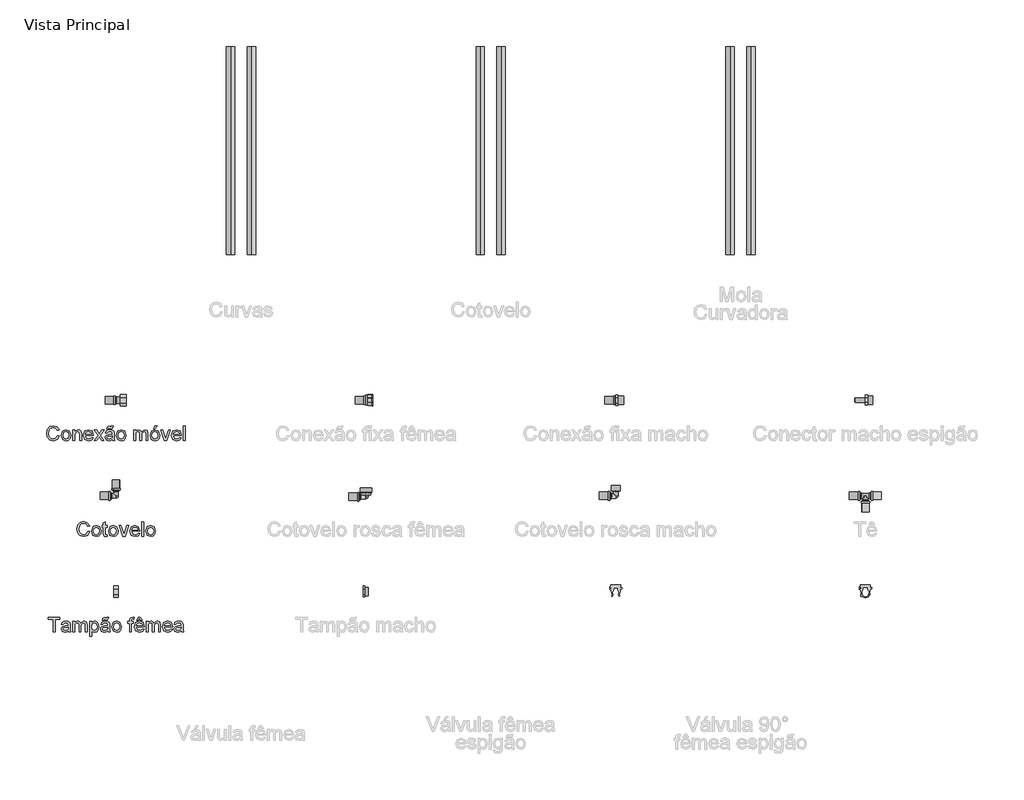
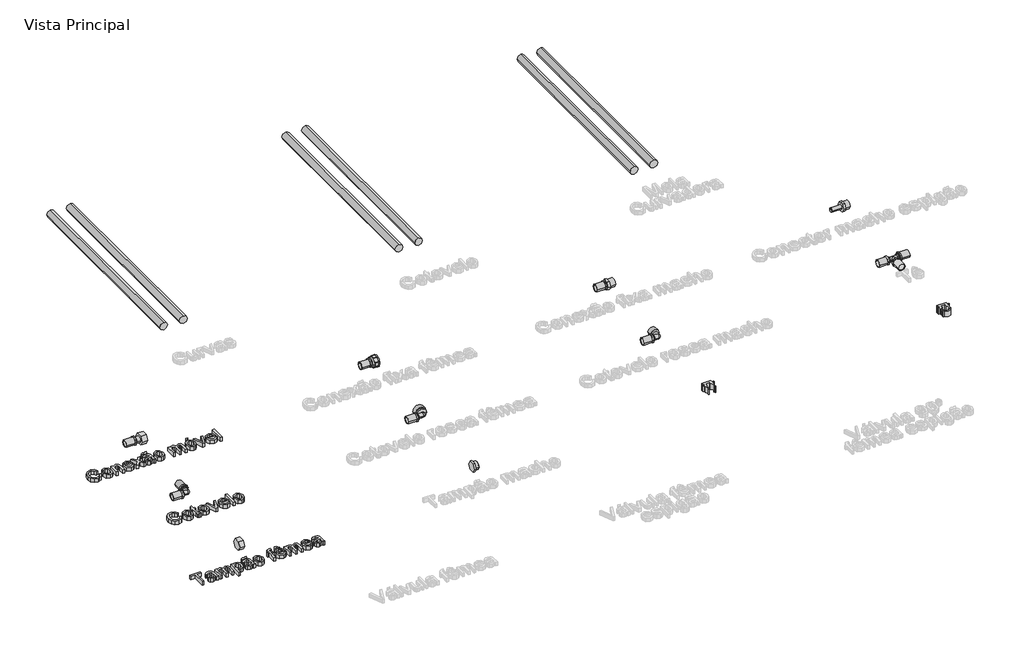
# One storey, part 1 of 5: 10 pipe fittings, 6 pipe segments, 3 proxies, 2 valves.
"""IFC4 building model written with IfcOpenShell, lengths in millimetres."""

from ifc_helpers import new_model, si_unit, point, frame, frame_2d, origin, origin_with_axes, place, context, project, spatial, polyline, circle_curve, trimmed, segment, composite_curve, outline, extrude, transform, mapped, element, save
from components import pipe_fitting_0619748f, pipe_fitting_c3ae606e, pipe_fitting_f01c144f, pipe_fitting_51212b87, pipe_fitting_8c27515d, pipe_fitting_84de9a5f, pipe_fitting_d493ae4f, pipe_fitting_e53a1377, pipe_fitting_d305088d, pipe_fitting_e26611ef, valve_88132709, valve_774353ad

model = new_model("IFC4")

# Units and contexts
model_context = context("Model", 3, world=origin())
ifc_project = project(units=[si_unit("LENGTHUNIT", "METRE", prefix="MILLI")], contexts=[model_context])

# Site, building, storey
site = spatial("IfcSite", under=ifc_project)
building = spatial("IfcBuilding", under=site)
storey = spatial("IfcBuildingStorey", under=building, Name="Vista Principal", Elevation=0.0)

# Proxies
placement = place(None, origin())
element("IfcBuildingElementProxy", 1, Name="Texto", ObjectType="Texto", at=placement, inside=storey, context=model_context, shape_type="SweptSolid", body=[
    extrude(outline(polyline([(-1232.2868861, -120.9709901), (-1227.8919225, -122.1040666), (-1233.1023578, -130.966957), (-1242.3043128, -134.0185382), (-1251.4504723, -131.7094655), (-1256.8154181, -125.0225971), (-1258.6566675, -115.6232122), (-1256.5750685, -106.0693168), (-1250.6564603, -99.8760234), (-1242.2098897, -97.7600888), (-1233.4070867, -100.4983571), (-1228.4412929, -108.2067111), (-1232.8362565, -109.2539486), (-1236.4415001, -103.8503752), (-1242.381568, -102.1550523), (-1249.2572825, -104.0349293), (-1253.1415032, -109.0822703), (-1254.2617039, -115.6146283), (-1252.9354893, -123.1856397), (-1248.806627, -128.0226748), (-1242.7420924, -129.6235746), (-1236.0165963, -127.4432607), (-1232.2868861, -120.9709901)])), origin_with_axes(), (0.0, 0.0, 1.0), 10.0),
    extrude(outline(polyline([(-1223.4969589, -120.5589623), (-1219.6942854, -109.9578294), (-1211.9515956, -107.0993863), (-1203.6466596, -110.5801632), (-1200.4234002, -120.1984379), (-1201.8483298, -128.0183829), (-1205.9986518, -132.4433901), (-1211.9515956, -134.0185382), (-1220.3080352, -130.5506373), (-1223.4969589, -120.5589623)]), holes=[polyline([(-1219.1019953, -120.5503784), (-1217.0676079, -127.3617135), (-1211.9515956, -129.6235746), (-1206.8527512, -127.3488376), (-1204.8183637, -120.4130357), (-1206.865627, -113.756211), (-1211.9515956, -111.4943499), (-1217.0676079, -113.7476271), (-1219.1019953, -120.5503784)])]), origin_with_axes(), (0.0, 0.0, 1.0), 10.0),
    extrude(outline(polyline([(-1195.4790662, -133.4691678), (-1195.4790662, -107.6487568), (-1191.0841026, -107.6487568), (-1191.0841026, -111.2540003), (-1183.1353989, -107.0993863), (-1178.9850769, -107.9363179), (-1176.1523855, -110.1337997), (-1174.8347549, -113.365643), (-1174.6029892, -117.61468), (-1174.6029892, -133.4691678), (-1178.9979528, -133.4691678), (-1178.9979528, -118.20697), (-1179.5044037, -114.3184574), (-1181.2941496, -112.2626101), (-1184.3113951, -111.4943499), (-1189.0797589, -113.2197165), (-1191.0841026, -119.7692423), (-1191.0841026, -133.4691678), (-1195.4790662, -133.4691678)])), origin_with_axes(), (0.0, 0.0, 1.0), 10.0),
    extrude(outline(polyline([(-1150.4821931, -125.7779815), (-1146.1730686, -126.327352), (-1150.2032159, -132.0013186), (-1157.709848, -134.0185382), (-1166.8345477, -130.5377614), (-1170.2080256, -120.7735601), (-1166.8002121, -110.6874621), (-1157.9587815, -107.0993863), (-1149.3705763, -110.6788782), (-1146.035726, -120.7478084), (-1165.8130621, -121.9323884), (-1163.2850996, -127.6406907), (-1157.6240089, -129.6235746), (-1153.3148844, -128.7050959), (-1150.4821931, -125.7779815)]), holes=[polyline([(-1165.8130621, -117.5374248), (-1150.4306896, -117.5374248), (-1152.1903918, -113.5544891), (-1157.9759493, -111.4943499), (-1163.3881066, -113.1381693), (-1165.8130621, -117.5374248)])]), origin_with_axes(), (0.0, 0.0, 1.0), 10.0),
    extrude(outline(polyline([(-1144.3876147, -133.4691678), (-1134.9968136, -120.490291), (-1143.8382442, -107.6487568), (-1138.5505537, -107.6487568), (-1134.2843488, -113.8291743), (-1132.2928809, -116.7477048), (-1130.5675144, -114.3613769), (-1125.7090195, -107.6487568), (-1120.421329, -107.6487568), (-1129.7091231, -120.490291), (-1120.7646855, -133.4691678), (-1126.052376, -133.4691678), (-1131.4344896, -125.6663906), (-1132.4216396, -124.241461), (-1139.0999241, -133.4691678), (-1144.3876147, -133.4691678)])), origin_with_axes(), (0.0, 0.0, 1.0), 10.0),
    extrude(outline(polyline([(-1100.437979, -130.1729451), (-1104.6998919, -133.151563), (-1109.4081683, -134.0185382), (-1115.7903078, -131.9326473), (-1118.0178333, -126.6020372), (-1117.1766098, -123.1255523), (-1114.9662521, -120.6018818), (-1111.8889192, -119.1597844), (-1108.0862457, -118.4988231), (-1100.4637307, -116.9880544), (-1101.6483107, -112.7647691), (-1106.5068056, -111.4943499), (-1110.9532727, -112.3398654), (-1113.0734992, -115.339943), (-1117.4684628, -114.7905726), (-1115.567126, -110.498616), (-1111.7387007, -107.9835294), (-1105.9402674, -107.0993863), (-1100.6139492, -107.8805224), (-1097.6052876, -109.8419466), (-1096.2576132, -112.8248565), (-1096.0430154, -116.6704496), (-1096.0430154, -122.1384023), (-1095.8198337, -129.7737931), (-1094.9442745, -133.4691678), (-1099.3392381, -133.4691678), (-1100.437979, -130.1729451)]), holes=[polyline([(-1100.4508548, -122.0053516), (-1107.5282913, -122.7306923), (-1111.3095051, -123.4431571), (-1113.0219958, -124.6019854), (-1113.6228697, -126.2930163), (-1112.3138229, -128.6707603), (-1108.4725218, -129.6235746), (-1104.0260547, -128.5720453), (-1101.1590277, -126.026915), (-1100.4508548, -122.0053516)])]), origin_with_axes(), (0.0, 0.0, 1.0), 10.0),
    extrude(outline(polyline([(-1114.1722401, -104.9019046), (-1112.8073979, -100.1034971), (-1109.3137453, -98.3094592), (-1105.7943408, -99.7258049), (-1104.0174708, -100.506941), (-1102.6354608, -98.3094592), (-1098.7898676, -98.3094592), (-1100.1847535, -103.2537932), (-1103.5539395, -104.9019046), (-1107.0304243, -103.5628141), (-1108.8845496, -102.7044228), (-1110.326647, -104.9019046), (-1114.1722401, -104.9019046)])), origin_with_axes(), (0.0, 0.0, 1.0), 10.0),
    extrude(outline(polyline([(-1091.0986814, -120.5589623), (-1087.2960078, -109.9578294), (-1079.5533181, -107.0993863), (-1071.2483821, -110.5801632), (-1068.0251227, -120.1984379), (-1069.4500523, -128.0183829), (-1073.6003743, -132.4433901), (-1079.5533181, -134.0185382), (-1087.9097576, -130.5506373), (-1091.0986814, -120.5589623)]), holes=[polyline([(-1086.7037178, -120.5503784), (-1084.6693304, -127.3617135), (-1079.5533181, -129.6235746), (-1074.4544737, -127.3488376), (-1072.4200862, -120.4130357), (-1074.4673495, -113.756211), (-1079.5533181, -111.4943499), (-1084.6693304, -113.7476271), (-1086.7037178, -120.5503784)])]), origin_with_axes(), (0.0, 0.0, 1.0), 10.0),
    extrude(outline(polyline([(-1049.3465275, -133.4691678), (-1049.3465275, -107.6487568), (-1044.9515639, -107.6487568), (-1044.9515639, -111.8977938), (-1041.9300265, -108.417017), (-1037.6294859, -107.0993863), (-1033.2259385, -108.4427688), (-1030.8052749, -112.2068147), (-1023.0454174, -107.0993863), (-1017.2984875, -109.2239049), (-1015.2855598, -115.7691387), (-1015.2855598, -133.4691678), (-1019.6805234, -133.4691678), (-1019.6805234, -117.6575996), (-1020.0882593, -113.9879767), (-1021.5646924, -112.181063), (-1024.075487, -111.4943499), (-1028.3974873, -113.2540521), (-1030.1185619, -118.8936831), (-1030.1185619, -133.4691678), (-1034.5135254, -133.4691678), (-1034.5135254, -117.1683165), (-1035.5307192, -112.9106956), (-1038.8655694, -111.4943499), (-1042.1188726, -112.4385804), (-1044.2820187, -115.2026004), (-1044.9515639, -120.4473714), (-1044.9515639, -133.4691678), (-1049.3465275, -133.4691678)])), origin_with_axes(), (0.0, 0.0, 1.0), 10.0),
    extrude(outline(polyline([(-1009.7918554, -120.5589623), (-1005.9891818, -109.9578294), (-998.2464921, -107.0993863), (-989.941556, -110.5801632), (-986.7182966, -120.1984379), (-988.1432262, -128.0183829), (-992.2935483, -132.4433901), (-998.2464921, -134.0185382), (-1006.6029316, -130.5506373), (-1009.7918554, -120.5589623)]), holes=[polyline([(-1005.3968918, -120.5503784), (-1003.3625044, -127.3617135), (-998.2464921, -129.6235746), (-993.1476476, -127.3488376), (-991.1132602, -120.4130357), (-993.1605235, -113.756211), (-998.2464921, -111.4943499), (-1003.3625044, -113.7476271), (-1005.3968918, -120.5503784)])]), origin_with_axes(), (0.0, 0.0, 1.0), 10.0),
    extrude(outline(polyline([(-1001.5512987, -104.9019046), (-998.255076, -98.3094592), (-992.7613715, -98.3094592), (-998.255076, -104.9019046), (-1001.5512987, -104.9019046)])), origin_with_axes(), (0.0, 0.0, 1.0), 10.0),
    extrude(outline(polyline([(-975.4390347, -133.4691678), (-984.5208148, -107.6487568), (-979.8683339, -107.6487568), (-974.3660455, -123.1169684), (-972.7093503, -128.3188198), (-971.0869907, -123.4088215), (-965.5503666, -107.6487568), (-960.8978857, -107.6487568), (-969.868075, -133.4691678), (-975.4390347, -133.4691678)])), origin_with_axes(), (0.0, 0.0, 1.0), 10.0),
    extrude(outline(polyline([(-938.9745713, -125.7779815), (-934.6654469, -126.327352), (-938.6955941, -132.0013186), (-946.2022262, -134.0185382), (-955.326926, -130.5377614), (-958.7004039, -120.7735601), (-955.2925903, -110.6874621), (-946.4511597, -107.0993863), (-937.8629545, -110.6788782), (-934.5281042, -120.7478084), (-954.3054403, -121.9323884), (-951.7774779, -127.6406907), (-946.1163871, -129.6235746), (-941.8072627, -128.7050959), (-938.9745713, -125.7779815)]), holes=[polyline([(-954.3054403, -117.5374248), (-938.9230678, -117.5374248), (-940.68277, -113.5544891), (-946.4683275, -111.4943499), (-951.8804848, -113.1381693), (-954.3054403, -117.5374248)])]), origin_with_axes(), (0.0, 0.0, 1.0), 10.0),
    extrude(outline(polyline([(-930.1331407, -133.4691678), (-930.1331407, -98.3094592), (-925.7381771, -98.3094592), (-925.7381771, -133.4691678), (-930.1331407, -133.4691678)])), origin_with_axes(), (0.0, 0.0, 1.0), 10.0),
])
element("IfcBuildingElementProxy", 2, Name="Texto", ObjectType="Texto", at=placement, inside=storey, context=model_context, shape_type="SweptSolid", body=[
    extrude(outline(polyline([(-1159.2206167, -350.9709901), (-1154.8256531, -352.1040666), (-1160.0360885, -360.966957), (-1169.2380434, -364.0185382), (-1178.384203, -361.7094655), (-1183.7491487, -355.0225971), (-1185.5903981, -345.6232122), (-1183.5087992, -336.0693168), (-1177.590191, -329.8760234), (-1169.1436204, -327.7600888), (-1160.3408174, -330.4983571), (-1155.3750236, -338.2067111), (-1159.7699872, -339.2539486), (-1163.3752307, -333.8503752), (-1169.3152987, -332.1550523), (-1176.1910132, -334.0349293), (-1180.0752339, -339.0822703), (-1181.1954346, -345.6146283), (-1179.86922, -353.1856397), (-1175.7403577, -358.0226748), (-1169.675823, -359.6235746), (-1162.950327, -357.4432607), (-1159.2206167, -350.9709901)])), origin_with_axes(), (0.0, 0.0, 1.0), 10.0),
    extrude(outline(polyline([(-1150.4306896, -350.5589623), (-1146.628016, -339.9578294), (-1138.8853263, -337.0993863), (-1130.5803903, -340.5801632), (-1127.3571308, -350.1984379), (-1128.7820604, -358.0183829), (-1132.9323825, -362.4433901), (-1138.8853263, -364.0185382), (-1147.2417658, -360.5506373), (-1150.4306896, -350.5589623)]), holes=[polyline([(-1146.035726, -350.5503784), (-1144.0013386, -357.3617135), (-1138.8853263, -359.6235746), (-1133.7864818, -357.3488376), (-1131.7520944, -350.4130357), (-1133.7993577, -343.756211), (-1138.8853263, -341.4943499), (-1144.0013386, -343.7476271), (-1146.035726, -350.5503784)])]), origin_with_axes(), (0.0, 0.0, 1.0), 10.0),
    extrude(outline(polyline([(-1113.0734992, -359.8038368), (-1112.5241288, -363.5979265), (-1115.8117676, -364.0185382), (-1119.4942663, -363.2889056), (-1121.3312238, -361.3746929), (-1121.8634264, -356.3874393), (-1121.8634264, -342.0437204), (-1125.1596491, -342.0437204), (-1125.1596491, -337.6487568), (-1121.8634264, -337.6487568), (-1121.8634264, -331.3739162), (-1117.4684628, -328.7901583), (-1117.4684628, -337.6487568), (-1113.0734992, -337.6487568), (-1113.0734992, -342.0437204), (-1117.4684628, -342.0437204), (-1117.4684628, -356.2586806), (-1117.2366972, -358.5248337), (-1113.0734992, -359.8038368)])), origin_with_axes(), (0.0, 0.0, 1.0), 10.0),
    extrude(outline(polyline([(-1109.7772766, -350.5589623), (-1105.974603, -339.9578294), (-1098.2319133, -337.0993863), (-1089.9269772, -340.5801632), (-1086.7037178, -350.1984379), (-1088.1286474, -358.0183829), (-1092.2789695, -362.4433901), (-1098.2319133, -364.0185382), (-1106.5883528, -360.5506373), (-1109.7772766, -350.5589623)]), holes=[polyline([(-1105.382313, -350.5503784), (-1103.3479256, -357.3617135), (-1098.2319133, -359.6235746), (-1093.1330688, -357.3488376), (-1091.0986814, -350.4130357), (-1093.1459447, -343.756211), (-1098.2319133, -341.4943499), (-1103.3479256, -343.7476271), (-1105.382313, -350.5503784)])]), origin_with_axes(), (0.0, 0.0, 1.0), 10.0),
    extrude(outline(polyline([(-1075.4244559, -363.4691678), (-1084.506236, -337.6487568), (-1079.8537551, -337.6487568), (-1074.3514667, -353.1169684), (-1072.6947715, -358.3188198), (-1071.0724119, -353.4088215), (-1065.5357878, -337.6487568), (-1060.8833069, -337.6487568), (-1069.8534962, -363.4691678), (-1075.4244559, -363.4691678)])), origin_with_axes(), (0.0, 0.0, 1.0), 10.0),
    extrude(outline(polyline([(-1038.9599925, -355.7779815), (-1034.6508681, -356.327352), (-1038.6810153, -362.0013186), (-1046.1876474, -364.0185382), (-1055.3123472, -360.5377614), (-1058.6858251, -350.7735601), (-1055.2780115, -340.6874621), (-1046.4365809, -337.0993863), (-1037.8483757, -340.6788782), (-1034.5135254, -350.7478084), (-1054.2908615, -351.9323884), (-1051.7628991, -357.6406907), (-1046.1018083, -359.6235746), (-1041.7926839, -358.7050959), (-1038.9599925, -355.7779815)]), holes=[polyline([(-1054.2908615, -347.5374248), (-1038.908489, -347.5374248), (-1040.6681912, -343.5544891), (-1046.4537487, -341.4943499), (-1051.865906, -343.1381693), (-1054.2908615, -347.5374248)])]), origin_with_axes(), (0.0, 0.0, 1.0), 10.0),
    extrude(outline(polyline([(-1030.1185619, -363.4691678), (-1030.1185619, -328.3094592), (-1025.7235983, -328.3094592), (-1025.7235983, -363.4691678), (-1030.1185619, -363.4691678)])), origin_with_axes(), (0.0, 0.0, 1.0), 10.0),
    extrude(outline(polyline([(-1020.2298938, -350.5589623), (-1016.4272203, -339.9578294), (-1008.6845306, -337.0993863), (-1000.3795945, -340.5801632), (-997.1563351, -350.1984379), (-998.5812647, -358.0183829), (-1002.7315867, -362.4433901), (-1008.6845306, -364.0185382), (-1017.0409701, -360.5506373), (-1020.2298938, -350.5589623)]), holes=[polyline([(-1015.8349303, -350.5503784), (-1013.8005428, -357.3617135), (-1008.6845306, -359.6235746), (-1003.5856861, -357.3488376), (-1001.5512987, -350.4130357), (-1003.598562, -343.756211), (-1008.6845306, -341.4943499), (-1013.8005428, -343.7476271), (-1015.8349303, -350.5503784)])]), origin_with_axes(), (0.0, 0.0, 1.0), 10.0),
])
element("IfcBuildingElementProxy", 3, Name="Texto", ObjectType="Texto", at=placement, inside=storey, context=model_context, shape_type="SweptSolid", body=[
    extrude(outline(polyline([(-1242.7249245, -593.4691678), (-1242.7249245, -562.7044228), (-1254.2617039, -562.7044228), (-1254.2617039, -558.3094592), (-1226.7931816, -558.3094592), (-1226.7931816, -562.7044228), (-1238.329961, -562.7044228), (-1238.329961, -593.4691678), (-1242.7249245, -593.4691678)])), origin_with_axes(), (0.0, 0.0, 1.0), 10.0),
    extrude(outline(polyline([(-1205.9171046, -590.1729451), (-1210.1790176, -593.151563), (-1214.887294, -594.0185382), (-1221.2694334, -591.9326473), (-1223.4969589, -586.6020372), (-1222.6557354, -583.1255523), (-1220.4453778, -580.6018818), (-1217.3680449, -579.1597844), (-1213.5653713, -578.4988231), (-1205.9428564, -576.9880544), (-1207.1274364, -572.7647691), (-1211.9859313, -571.4943499), (-1216.4323983, -572.3398654), (-1218.5526249, -575.339943), (-1222.9475885, -574.7905726), (-1221.0462517, -570.498616), (-1217.2178264, -567.9835294), (-1211.419393, -567.0993863), (-1206.0930749, -567.8805224), (-1203.0844133, -569.8419466), (-1201.7367389, -572.8248565), (-1201.5221411, -576.6704496), (-1201.5221411, -582.1384023), (-1201.2989593, -589.7737931), (-1200.4234002, -593.4691678), (-1204.8183637, -593.4691678), (-1205.9171046, -590.1729451)]), holes=[polyline([(-1205.9299805, -582.0053516), (-1213.007417, -582.7306923), (-1216.7886307, -583.4431571), (-1218.5011214, -584.6019854), (-1219.1019953, -586.2930163), (-1217.7929486, -588.6707603), (-1213.9516474, -589.6235746), (-1209.5051804, -588.5720453), (-1206.6381533, -586.026915), (-1205.9299805, -582.0053516)])]), origin_with_axes(), (0.0, 0.0, 1.0), 10.0),
    extrude(outline(polyline([(-1195.4790662, -593.4691678), (-1195.4790662, -567.6487568), (-1191.0841026, -567.6487568), (-1191.0841026, -571.8977938), (-1188.0625651, -568.417017), (-1183.7620246, -567.0993863), (-1179.3584771, -568.4427688), (-1176.9378136, -572.2068147), (-1169.1779561, -567.0993863), (-1163.4310262, -569.2239049), (-1161.4180985, -575.7691387), (-1161.4180985, -593.4691678), (-1165.8130621, -593.4691678), (-1165.8130621, -577.6575996), (-1166.2207979, -573.9879767), (-1167.697231, -572.181063), (-1170.2080256, -571.4943499), (-1174.5300259, -573.2540521), (-1176.2511005, -578.8936831), (-1176.2511005, -593.4691678), (-1180.6460641, -593.4691678), (-1180.6460641, -577.1683165), (-1181.6632578, -572.9106956), (-1184.9981081, -571.4943499), (-1188.2514112, -572.4385804), (-1190.4145574, -575.2026004), (-1191.0841026, -580.4473714), (-1191.0841026, -593.4691678), (-1195.4790662, -593.4691678)])), origin_with_axes(), (0.0, 0.0, 1.0), 10.0),
    extrude(outline(polyline([(-1154.8256531, -603.3578358), (-1154.8256531, -567.6487568), (-1150.4306896, -567.6487568), (-1150.4306896, -571.9578812), (-1147.3919843, -568.3140101), (-1143.2888738, -567.0993863), (-1137.7179141, -568.7990012), (-1134.0783349, -573.5888247), (-1132.8508353, -580.3615323), (-1134.2371373, -587.4818883), (-1138.2629926, -592.3317993), (-1143.8210764, -594.0185382), (-1147.6452097, -592.8897536), (-1150.4306896, -590.0356025), (-1150.4306896, -603.3578358), (-1154.8256531, -603.3578358)]), holes=[polyline([(-1150.4306896, -580.7649762), (-1148.5293528, -587.4604285), (-1143.9154994, -589.6235746), (-1139.207223, -587.3831733), (-1137.2457989, -580.4387875), (-1139.1600115, -573.7261673), (-1143.7352373, -571.4943499), (-1148.4005941, -573.8678019), (-1150.4306896, -580.7649762)])]), origin_with_axes(), (0.0, 0.0, 1.0), 10.0),
    extrude(outline(polyline([(-1125.1596491, -564.9019046), (-1123.7948069, -560.1034971), (-1120.3011542, -558.3094592), (-1116.7817498, -559.7258049), (-1115.0048797, -560.506941), (-1113.6228697, -558.3094592), (-1109.7772766, -558.3094592), (-1111.1721625, -563.2537932), (-1114.5413484, -564.9019046), (-1118.0178333, -563.5628141), (-1119.8719585, -562.7044228), (-1121.3140559, -564.9019046), (-1125.1596491, -564.9019046)])), origin_with_axes(), (0.0, 0.0, 1.0), 10.0),
    extrude(outline(polyline([(-1111.4253879, -590.1729451), (-1115.6873008, -593.151563), (-1120.3955772, -594.0185382), (-1126.7777167, -591.9326473), (-1129.0052422, -586.6020372), (-1128.1640187, -583.1255523), (-1125.953661, -580.6018818), (-1122.8763281, -579.1597844), (-1119.0736546, -578.4988231), (-1111.4511396, -576.9880544), (-1112.6357197, -572.7647691), (-1117.4942145, -571.4943499), (-1121.9406816, -572.3398654), (-1124.0609082, -575.339943), (-1128.4558717, -574.7905726), (-1126.554535, -570.498616), (-1122.7261097, -567.9835294), (-1116.9276763, -567.0993863), (-1111.6013581, -567.8805224), (-1108.5926965, -569.8419466), (-1107.2450222, -572.8248565), (-1107.0304243, -576.6704496), (-1107.0304243, -582.1384023), (-1106.8072426, -589.7737931), (-1105.9316834, -593.4691678), (-1110.326647, -593.4691678), (-1111.4253879, -590.1729451)]), holes=[polyline([(-1111.4382638, -582.0053516), (-1118.5157002, -582.7306923), (-1122.296914, -583.4431571), (-1124.0094047, -584.6019854), (-1124.6102786, -586.2930163), (-1123.3012318, -588.6707603), (-1119.4599307, -589.6235746), (-1115.0134636, -588.5720453), (-1112.1464366, -586.026915), (-1111.4382638, -582.0053516)])]), origin_with_axes(), (0.0, 0.0, 1.0), 10.0),
    extrude(outline(polyline([(-1102.0860903, -580.5589623), (-1098.2834168, -569.9578294), (-1090.540727, -567.0993863), (-1082.235791, -570.5801632), (-1079.0125316, -580.1984379), (-1080.4374612, -588.0183829), (-1084.5877832, -592.4433901), (-1090.540727, -594.0185382), (-1098.8971666, -590.5506373), (-1102.0860903, -580.5589623)]), holes=[polyline([(-1097.6911267, -580.5503784), (-1095.6567393, -587.3617135), (-1090.540727, -589.6235746), (-1085.4418826, -587.3488376), (-1083.4074951, -580.4130357), (-1085.4547585, -573.756211), (-1090.540727, -571.4943499), (-1095.6567393, -573.7476271), (-1097.6911267, -580.5503784)])]), origin_with_axes(), (0.0, 0.0, 1.0), 10.0),
    extrude(outline(polyline([(-1059.2351955, -593.4691678), (-1059.2351955, -572.0437204), (-1063.0807886, -572.0437204), (-1063.0807886, -567.6487568), (-1059.2351955, -567.6487568), (-1059.2351955, -565.0478311), (-1058.7716642, -561.3825001), (-1056.5226789, -558.7644066), (-1052.0933797, -557.7600888), (-1048.0846922, -558.2407879), (-1048.7284857, -562.3610662), (-1051.2607401, -562.1550523), (-1054.0290522, -562.8846849), (-1054.840232, -565.6057854), (-1054.840232, -567.6487568), (-1049.8958979, -567.6487568), (-1049.8958979, -572.0437204), (-1054.840232, -572.0437204), (-1054.840232, -593.4691678), (-1059.2351955, -593.4691678)])), origin_with_axes(), (0.0, 0.0, 1.0), 10.0),
    extrude(outline(polyline([(-1027.9725836, -585.7779815), (-1023.6634591, -586.327352), (-1027.6936064, -592.0013186), (-1035.2002385, -594.0185382), (-1044.3249383, -590.5377614), (-1047.6984162, -580.7735601), (-1044.2906026, -570.6874621), (-1035.449172, -567.0993863), (-1026.8609668, -570.6788782), (-1023.5261165, -580.7478084), (-1043.3034526, -581.9323884), (-1040.7754901, -587.6406907), (-1035.1143994, -589.6235746), (-1030.8052749, -588.7050959), (-1027.9725836, -585.7779815)]), holes=[polyline([(-1043.3034526, -577.5374248), (-1027.9210801, -577.5374248), (-1029.6807823, -573.5544891), (-1035.4663398, -571.4943499), (-1040.8784971, -573.1381693), (-1043.3034526, -577.5374248)])]), origin_with_axes(), (0.0, 0.0, 1.0), 10.0),
    extrude(outline(polyline([(-1035.6122663, -560.506941), (-1038.0844333, -564.9019046), (-1042.4793969, -564.9019046), (-1037.8097481, -558.3094592), (-1033.4147846, -558.3094592), (-1028.1957653, -564.9019046), (-1032.5907289, -564.9019046), (-1035.6122663, -560.506941)])), origin_with_axes(), (0.0, 0.0, 1.0), 10.0),
    extrude(outline(polyline([(-1019.131153, -593.4691678), (-1019.131153, -567.6487568), (-1014.7361894, -567.6487568), (-1014.7361894, -571.8977938), (-1011.7146519, -568.417017), (-1007.4141114, -567.0993863), (-1003.0105639, -568.4427688), (-1000.5899004, -572.2068147), (-992.8300428, -567.0993863), (-987.0831129, -569.2239049), (-985.0701853, -575.7691387), (-985.0701853, -593.4691678), (-989.4651489, -593.4691678), (-989.4651489, -577.6575996), (-989.8728847, -573.9879767), (-991.3493178, -572.181063), (-993.8601124, -571.4943499), (-998.1821127, -573.2540521), (-999.9031873, -578.8936831), (-999.9031873, -593.4691678), (-1004.2981509, -593.4691678), (-1004.2981509, -577.1683165), (-1005.3153446, -572.9106956), (-1008.6501949, -571.4943499), (-1011.903498, -572.4385804), (-1014.0666442, -575.2026004), (-1014.7361894, -580.4473714), (-1014.7361894, -593.4691678), (-1019.131153, -593.4691678)])), origin_with_axes(), (0.0, 0.0, 1.0), 10.0),
    extrude(outline(polyline([(-960.4000187, -585.7779815), (-956.0908943, -586.327352), (-960.1210415, -592.0013186), (-967.6276736, -594.0185382), (-976.7523734, -590.5377614), (-980.1258513, -580.7735601), (-976.7180377, -570.6874621), (-967.8766071, -567.0993863), (-959.2884019, -570.6788782), (-955.9535516, -580.7478084), (-975.7308877, -581.9323884), (-973.2029253, -587.6406907), (-967.5418345, -589.6235746), (-963.2327101, -588.7050959), (-960.4000187, -585.7779815)]), holes=[polyline([(-975.7308877, -577.5374248), (-960.3485152, -577.5374248), (-962.1082174, -573.5544891), (-967.8937749, -571.4943499), (-973.3059322, -573.1381693), (-975.7308877, -577.5374248)])]), origin_with_axes(), (0.0, 0.0, 1.0), 10.0),
    extrude(outline(polyline([(-935.0774747, -590.1729451), (-939.3393876, -593.151563), (-944.047664, -594.0185382), (-950.4298035, -591.9326473), (-952.657329, -586.6020372), (-951.8161055, -583.1255523), (-949.6057478, -580.6018818), (-946.5284149, -579.1597844), (-942.7257414, -578.4988231), (-935.1032264, -576.9880544), (-936.2878065, -572.7647691), (-941.1463013, -571.4943499), (-945.5927684, -572.3398654), (-947.712995, -575.339943), (-952.1079585, -574.7905726), (-950.2066217, -570.498616), (-946.3781964, -567.9835294), (-940.5797631, -567.0993863), (-935.2534449, -567.8805224), (-932.2447833, -569.8419466), (-930.897109, -572.8248565), (-930.6825111, -576.6704496), (-930.6825111, -582.1384023), (-930.4593294, -589.7737931), (-929.5837702, -593.4691678), (-933.9787338, -593.4691678), (-935.0774747, -590.1729451)]), holes=[polyline([(-935.0903506, -582.0053516), (-942.167787, -582.7306923), (-945.9490008, -583.4431571), (-947.6614915, -584.6019854), (-948.2623654, -586.2930163), (-946.9533186, -588.6707603), (-943.1120175, -589.6235746), (-938.6655504, -588.5720453), (-935.7985234, -586.026915), (-935.0903506, -582.0053516)])]), origin_with_axes(), (0.0, 0.0, 1.0), 10.0),
])

# Pipe fittings
pipe_fitting_shape = pipe_fitting_0619748f(model_context)
element("IfcPipeFitting", 4, ObjectType="Astra Gás - Conexão Rosca Móvel - GRM : Astra Gás - Conexão Rosca Móvel - GRM", at=placement, inside=storey, context=model_context, shape_type="MappedRepresentation", body=[
    mapped(pipe_fitting_shape, transform((-1091.6480518, -35.9691678, 0.0), x_axis=(1.0, 0.0, 0.0), y_axis=(0.0, 1.0, 0.0), z_axis=(0.0, 0.0, 1.0))),
])
pipe_fitting_2_shape = pipe_fitting_c3ae606e(model_context)
element("IfcPipeFitting", 5, ObjectType="Astra Gás - Conexão Fixa Fêmea - GRH : Astra Gás - Conexão Fixa Fêmea - GRH", at=placement, inside=storey, context=model_context, shape_type="MappedRepresentation", body=[
    mapped(pipe_fitting_2_shape, transform((-491.6480518, -35.9691678, 0.0), x_axis=(1.0, 0.0, 0.0), y_axis=(0.0, 1.0, 0.0), z_axis=(0.0, 0.0, 1.0))),
])
pipe_fitting_3_shape = pipe_fitting_f01c144f(model_context)
element("IfcPipeFitting", 6, ObjectType="Astra Gás - Conexão Fixa Macho - GRC : Astra Gás - Conexão Fixa Macho - GRC", at=placement, inside=storey, context=model_context, shape_type="MappedRepresentation", body=[
    mapped(pipe_fitting_3_shape, transform((108.3519482, -35.9691678, 0.0), x_axis=(1.0, 0.0, 0.0), y_axis=(0.0, 1.0, 0.0), z_axis=(0.0, 0.0, 1.0))),
])
pipe_fitting_4_shape = pipe_fitting_51212b87(model_context)
element("IfcPipeFitting", 7, ObjectType="Astra Gás - Conector Macho Espigão - GE : Astra Gás - Conector Macho Espigão - GE", at=placement, inside=storey, context=model_context, shape_type="MappedRepresentation", body=[
    mapped(pipe_fitting_4_shape, transform((708.3519482, -35.9691678, 0.0), x_axis=(1.0, 0.0, 0.0), y_axis=(0.0, 1.0, 0.0), z_axis=(0.0, 0.0, 1.0))),
])
pipe_fitting_5_shape = pipe_fitting_8c27515d(model_context)
element("IfcPipeFitting", 8, ObjectType="Astra Gás - Cotovelo - GC : Astra Gás - Cotovelo - GC", at=placement, inside=storey, context=model_context, shape_type="MappedRepresentation", body=[
    mapped(pipe_fitting_5_shape, transform((-1091.6480518, -265.9691678, 0.0), x_axis=(1.0, 0.0, 0.0), y_axis=(0.0, 1.0, 0.0), z_axis=(0.0, 0.0, 1.0))),
])
pipe_fitting_6_shape = pipe_fitting_84de9a5f(model_context)
element("IfcPipeFitting", 9, ObjectType="Astra Gás - Cotovelo com Rosca Fêmea - GTC : Astra Gás - Cotovelo com Rosca Fêmea - GTC", at=placement, inside=storey, context=model_context, shape_type="MappedRepresentation", body=[
    mapped(pipe_fitting_6_shape, transform((-491.6480518, -268.3937986, 0.0), x_axis=(1.0, 0.0, 0.0), y_axis=(0.0, 1.0, 0.0), z_axis=(0.0, 0.0, 1.0))),
])
pipe_fitting_7_shape = pipe_fitting_d493ae4f(model_context)
element("IfcPipeFitting", 10, ObjectType="Astra Gás - Cotovelo com Rosca Macho - GCR : Astra Gás - Cotovelo com Rosca Macho - GCR", at=placement, inside=storey, context=model_context, shape_type="MappedRepresentation", body=[
    mapped(pipe_fitting_7_shape, transform((108.3519482, -265.9691678, 0.0), x_axis=(1.0, 0.0, 0.0), y_axis=(0.0, 1.0, 0.0), z_axis=(0.0, 0.0, 1.0))),
])
pipe_fitting_8_shape = pipe_fitting_e53a1377(model_context)
element("IfcPipeFitting", 11, ObjectType="Astra Gás - Tampão Fêmea para Distribuidor - TAPH : Astra Gás - Tampão Fêmea para Distribuidor - TAPH", at=placement, inside=storey, context=model_context, shape_type="MappedRepresentation", body=[
    mapped(pipe_fitting_8_shape, transform((-1091.6480518, -495.9691678, 0.0), x_axis=(1.0, 0.0, 0.0), y_axis=(0.0, 1.0, 0.0), z_axis=(0.0, 0.0, 1.0))),
])
pipe_fitting_9_shape = pipe_fitting_d305088d(model_context)
element("IfcPipeFitting", 12, ObjectType="Astra Gás - Tampão Macho para Distribuidor - TAPM : Astra Gás - Tampão Macho para Distribuidor - TAPM", at=placement, inside=storey, context=model_context, shape_type="MappedRepresentation", body=[
    mapped(pipe_fitting_9_shape, transform((-491.6480518, -495.9691678, 0.0), x_axis=(1.0, 0.0, 0.0), y_axis=(0.0, 1.0, 0.0), z_axis=(0.0, 0.0, 1.0))),
])
pipe_fitting_10_shape = pipe_fitting_e26611ef(model_context)
element("IfcPipeFitting", 13, ObjectType="Astra Gás - Tê - GT : Astra Gás - Tê - GT", at=placement, inside=storey, context=model_context, shape_type="MappedRepresentation", body=[
    mapped(pipe_fitting_10_shape, transform((708.3519482, -265.9691678, 0.0), x_axis=(1.0, 0.0, 0.0), y_axis=(0.0, 1.0, 0.0), z_axis=(0.0, 0.0, 1.0))),
])

# Pipe segments
element("IfcPipeSegment", 14, ObjectType="Astra Gás - Amarelo - Curvas", at=placement, inside=storey, context=model_context, shape_type="SweptSolid", body=[
    extrude(outline(composite_curve([segment(trimmed(circle_curve(frame_2d((0.0, -816.6480518)), 10.0), [point((0.0, -826.6480518))], [point((-10.0, -816.6480518))], False, "CARTESIAN"), True, "CONTINUOUS"), segment(trimmed(circle_curve(frame_2d((0.0, -816.6480518)), 10.0), [point((-10.0, -816.6480518))], [point((0.0, -806.6480518))], False, "CARTESIAN"), True, "CONTINUOUS"), segment(trimmed(circle_curve(frame_2d((0.0, -816.6480518)), 10.0), [point((0.0, -806.6480518))], [point((10.0, -816.6480518))], False, "CARTESIAN"), True, "CONTINUOUS"), segment(trimmed(circle_curve(frame_2d((0.0, -816.6480518)), 10.0), [point((10.0, -816.6480518))], [point((0.0, -826.6480518))], False, "CARTESIAN"), True, "CONTINUOUS")], self_intersect=False)), frame((0.0, 314.0308322, 0.0), z_axis=(0.0, 1.0, 0.0), x_axis=(0.0, 0.0, 1.0)), (0.0, 0.0, 1.0), 500.0),
])
element("IfcPipeSegment", 15, ObjectType="Astra Gás - Branco - Curvas", at=placement, inside=storey, context=model_context, shape_type="SweptSolid", body=[
    extrude(outline(composite_curve([segment(trimmed(circle_curve(frame_2d((0.0, -766.6480518)), 10.0), [point((0.0, -776.6480518))], [point((-10.0, -766.6480518))], False, "CARTESIAN"), True, "CONTINUOUS"), segment(trimmed(circle_curve(frame_2d((0.0, -766.6480518)), 10.0), [point((-10.0, -766.6480518))], [point((0.0, -756.6480518))], False, "CARTESIAN"), True, "CONTINUOUS"), segment(trimmed(circle_curve(frame_2d((0.0, -766.6480518)), 10.0), [point((0.0, -756.6480518))], [point((10.0, -766.6480518))], False, "CARTESIAN"), True, "CONTINUOUS"), segment(trimmed(circle_curve(frame_2d((0.0, -766.6480518)), 10.0), [point((10.0, -766.6480518))], [point((0.0, -776.6480518))], False, "CARTESIAN"), True, "CONTINUOUS")], self_intersect=False)), frame((0.0, 314.0308322, 0.0), z_axis=(0.0, 1.0, 0.0), x_axis=(0.0, 0.0, 1.0)), (0.0, 0.0, 1.0), 500.0),
])
element("IfcPipeSegment", 16, ObjectType="Astra Gás - Amarelo - Cotovelo", at=placement, inside=storey, context=model_context, shape_type="SweptSolid", body=[
    extrude(outline(composite_curve([segment(trimmed(circle_curve(frame_2d((0.0, -216.6480518)), 10.0), [point((0.0, -226.6480518))], [point((-10.0, -216.6480518))], False, "CARTESIAN"), True, "CONTINUOUS"), segment(trimmed(circle_curve(frame_2d((0.0, -216.6480518)), 10.0), [point((-10.0, -216.6480518))], [point((0.0, -206.6480518))], False, "CARTESIAN"), True, "CONTINUOUS"), segment(trimmed(circle_curve(frame_2d((0.0, -216.6480518)), 10.0), [point((0.0, -206.6480518))], [point((10.0, -216.6480518))], False, "CARTESIAN"), True, "CONTINUOUS"), segment(trimmed(circle_curve(frame_2d((0.0, -216.6480518)), 10.0), [point((10.0, -216.6480518))], [point((0.0, -226.6480518))], False, "CARTESIAN"), True, "CONTINUOUS")], self_intersect=False)), frame((0.0, 314.0308322, 0.0), z_axis=(0.0, 1.0, 0.0), x_axis=(0.0, 0.0, 1.0)), (0.0, 0.0, 1.0), 500.0),
])
element("IfcPipeSegment", 17, ObjectType="Astra Gás - Branco - Cotovelo", at=placement, inside=storey, context=model_context, shape_type="SweptSolid", body=[
    extrude(outline(composite_curve([segment(trimmed(circle_curve(frame_2d((0.0, -166.6480518)), 10.0), [point((0.0, -176.6480518))], [point((-10.0, -166.6480518))], False, "CARTESIAN"), True, "CONTINUOUS"), segment(trimmed(circle_curve(frame_2d((0.0, -166.6480518)), 10.0), [point((-10.0, -166.6480518))], [point((0.0, -156.6480518))], False, "CARTESIAN"), True, "CONTINUOUS"), segment(trimmed(circle_curve(frame_2d((0.0, -166.6480518)), 10.0), [point((0.0, -156.6480518))], [point((10.0, -166.6480518))], False, "CARTESIAN"), True, "CONTINUOUS"), segment(trimmed(circle_curve(frame_2d((0.0, -166.6480518)), 10.0), [point((10.0, -166.6480518))], [point((0.0, -176.6480518))], False, "CARTESIAN"), True, "CONTINUOUS")], self_intersect=False)), frame((0.0, 314.0308322, 0.0), z_axis=(0.0, 1.0, 0.0), x_axis=(0.0, 0.0, 1.0)), (0.0, 0.0, 1.0), 500.0),
])
element("IfcPipeSegment", 18, ObjectType="Astra Gás - Amarelo - Mola Curvadora", at=placement, inside=storey, context=model_context, shape_type="SweptSolid", body=[
    extrude(outline(composite_curve([segment(trimmed(circle_curve(frame_2d((0.0, 383.3519482)), 10.0), [point((0.0, 373.3519482))], [point((-10.0, 383.3519482))], False, "CARTESIAN"), True, "CONTINUOUS"), segment(trimmed(circle_curve(frame_2d((0.0, 383.3519482)), 10.0), [point((-10.0, 383.3519482))], [point((0.0, 393.3519482))], False, "CARTESIAN"), True, "CONTINUOUS"), segment(trimmed(circle_curve(frame_2d((0.0, 383.3519482)), 10.0), [point((0.0, 393.3519482))], [point((10.0, 383.3519482))], False, "CARTESIAN"), True, "CONTINUOUS"), segment(trimmed(circle_curve(frame_2d((0.0, 383.3519482)), 10.0), [point((10.0, 383.3519482))], [point((0.0, 373.3519482))], False, "CARTESIAN"), True, "CONTINUOUS")], self_intersect=False)), frame((0.0, 314.0308322, 0.0), z_axis=(0.0, 1.0, 0.0), x_axis=(0.0, 0.0, 1.0)), (0.0, 0.0, 1.0), 500.0),
])
element("IfcPipeSegment", 19, ObjectType="Astra Gás - Branco - Mola Curvadora", at=placement, inside=storey, context=model_context, shape_type="SweptSolid", body=[
    extrude(outline(composite_curve([segment(trimmed(circle_curve(frame_2d((0.0, 433.3519482)), 10.0), [point((0.0, 423.3519482))], [point((-10.0, 433.3519482))], False, "CARTESIAN"), True, "CONTINUOUS"), segment(trimmed(circle_curve(frame_2d((0.0, 433.3519482)), 10.0), [point((-10.0, 433.3519482))], [point((0.0, 443.3519482))], False, "CARTESIAN"), True, "CONTINUOUS"), segment(trimmed(circle_curve(frame_2d((0.0, 433.3519482)), 10.0), [point((0.0, 443.3519482))], [point((10.0, 433.3519482))], False, "CARTESIAN"), True, "CONTINUOUS"), segment(trimmed(circle_curve(frame_2d((0.0, 433.3519482)), 10.0), [point((10.0, 433.3519482))], [point((0.0, 423.3519482))], False, "CARTESIAN"), True, "CONTINUOUS")], self_intersect=False)), frame((0.0, 314.0308322, 0.0), z_axis=(0.0, 1.0, 0.0), x_axis=(0.0, 0.0, 1.0)), (0.0, 0.0, 1.0), 500.0),
])

# Valves
valve_shape = valve_88132709(model_context)
element("IfcValve", 20, ObjectType="Astra - Abraçadeira Plástica - AP : Astra - Abraçadeira Plástica - AP", at=placement, inside=storey, context=model_context, shape_type="MappedRepresentation", body=[
    mapped(valve_shape, transform((108.3519482, -480.5051678, 0.0), x_axis=(1.0, 0.0, 0.0), y_axis=(0.0, 0.0, 1.0), z_axis=(0.0, -1.0, 0.0))),
])
valve_2_shape = valve_774353ad(model_context)
element("IfcValve", 21, ObjectType="Astra - Abraçadeira Plástica com Fechamento - AP : Astra - Abraçadeira Plástica com Fechamento - AP", at=placement, inside=storey, context=model_context, shape_type="MappedRepresentation", body=[
    mapped(valve_2_shape, transform((708.3519482, -480.5051678, 0.0), x_axis=(1.0, 0.0, 0.0), y_axis=(0.0, 0.0, 1.0), z_axis=(0.0, -1.0, 0.0))),
])

save(model, "model.ifc")
